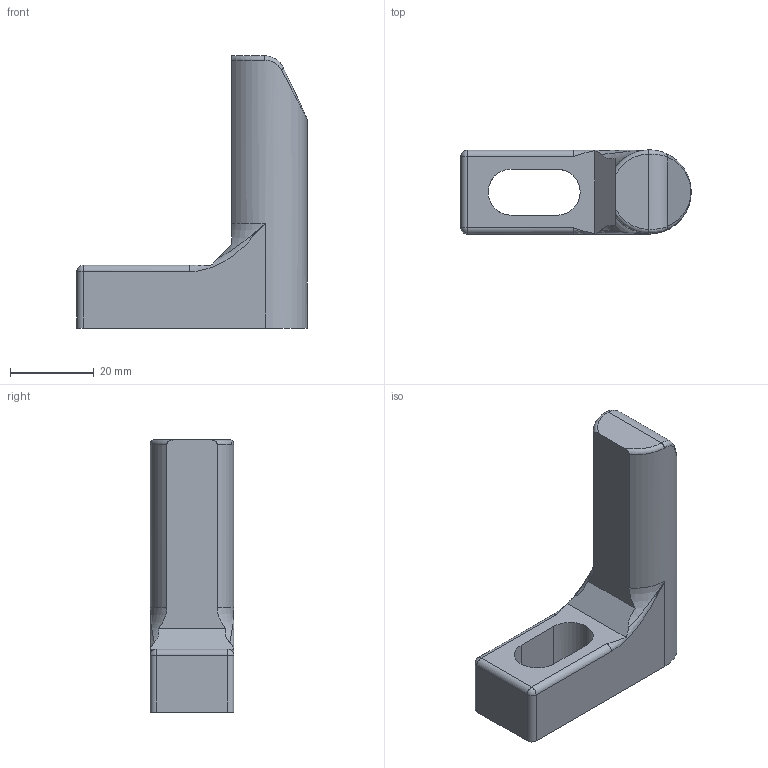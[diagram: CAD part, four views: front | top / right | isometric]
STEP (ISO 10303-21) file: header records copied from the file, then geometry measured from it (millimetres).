
FILE_DESCRIPTION(('CATIA V5 STEP Exchange'),'2;1');
FILE_NAME('C:\Users\Utente\Desktop\IO LAVORO\3D X SITO CF\X SITO\704\704-2.stp','2020-11-29T12:23:41+00:00',('none'),('none'),'CATIA Version 5 Release 20 GA (IN-10)','CATIA V5 STEP AP203','none');
FILE_SCHEMA(('CONFIG_CONTROL_DESIGN'));
Length unit declared in the file: millimetre
Products named in the file (1): 704-2
Bounding box: 55 x 20 x 65 mm (x, y, z)
Volume: 27165.2 mm3; surface area: 7506.5 mm2
Topology: 1 solids, 1 shells, 35 faces, 91 edges, 54 vertices
Faces by surface type: cylinder 12, plane 11, bspline 6, torus 4, sphere 2
Entity records: 1418 total; most frequent: CARTESIAN_POINT 648, ORIENTED_EDGE 174, DIRECTION 111, EDGE_CURVE 87, VERTEX_POINT 54, AXIS2_PLACEMENT_3D 50, EDGE_LOOP 37, ADVANCED_FACE 35
